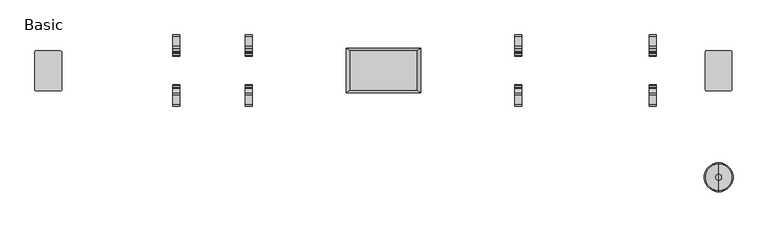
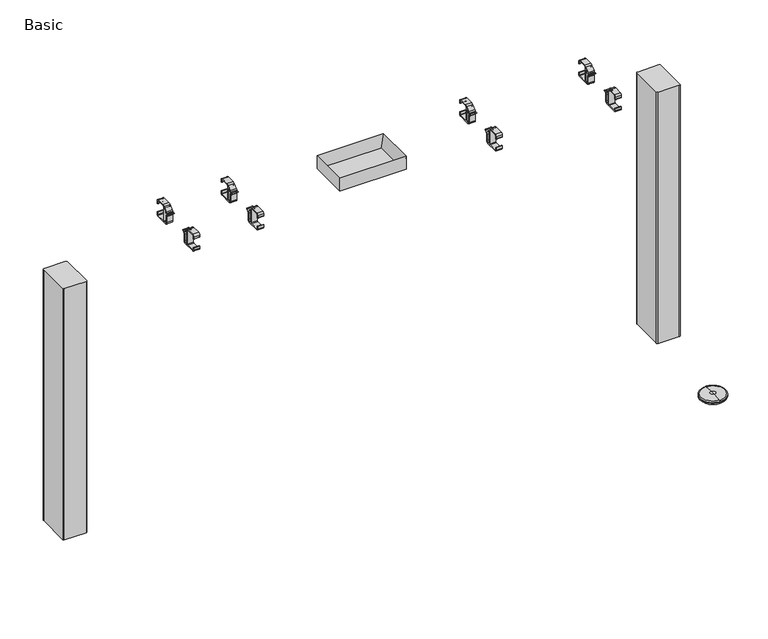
"""IFC4 building model written with IfcOpenShell, lengths in millimetres: furniture geometry, Steelcase Turnstone - Bivi - T Base : Basic."""

from ifc_helpers import new_model, si_unit, point, frame, frame_2d, origin, place, context, project, spatial, polyline, circle_curve, ellipse_curve, trimmed, segment, composite_curve, outline, extrude, faceted_brep, source, transform, mapped, element, save
from ifc_brep_helpers import plane_surface, cylinder_surface, revolved_surface, advanced_brep


def basic_98b1d471(model_context):
    return source(origin(), model_context, "Body", "SolidModel", [
        extrude(outline(composite_curve([segment(trimmed(circle_curve(frame_2d((606.6441449, -139.8062192)), 2.9999955), [point((609.6441404, -139.8062192))], [point((606.6441476, -142.8062147))], False, "CARTESIAN"), True, "CONTINUOUS"), segment(polyline([(606.6441476, -142.8062147), (552.7623335, -142.8062147)]), True, "CONTINUOUS"), segment(trimmed(circle_curve(frame_2d((552.7623308, -139.8062267)), 2.9999881), [point((552.7623335, -142.8062147))], [point((549.7623427, -139.8062267))], False, "CARTESIAN"), True, "CONTINUOUS"), segment(polyline([(549.7623427, -139.8062267), (549.7623427, -55.8062406)]), True, "CONTINUOUS"), segment(trimmed(circle_curve(frame_2d((552.7623507, -55.8062406)), 3.0000079), [point((549.7623427, -55.8062406))], [point((552.7623441, -52.8062327))], False, "CARTESIAN"), True, "CONTINUOUS"), segment(polyline([(552.7623441, -52.8062327), (606.644164, -52.8062327)]), True, "CONTINUOUS"), segment(trimmed(circle_curve(frame_2d((606.644164, -55.8062091)), 2.9999764), [point((606.644164, -52.8062327))], [point((609.6441404, -55.8062091))], False, "CARTESIAN"), True, "CONTINUOUS"), segment(polyline([(609.6441404, -55.8062091), (609.6441404, -139.8062192)]), True, "CONTINUOUS")], self_intersect=False)), frame((0.0, 0.0, 32.9997018), z_axis=(0.0, 0.0, 1.0), x_axis=(1.0, 0.0, 0.0)), (0.0, 0.0, 1.0), 673.400907),
        extrude(outline(composite_curve([segment(polyline([(-953.9431554, -140.227344), (-953.9431508, -55.5044158)]), True, "CONTINUOUS"), segment(trimmed(circle_curve(frame_2d((-951.2449196, -55.5044158)), 2.6982312), [point((-953.9431508, -55.5044158))], [point((-951.2449196, -52.8061846))], False, "CARTESIAN"), True, "CONTINUOUS"), segment(polyline([(-951.2449196, -52.8061846), (-898.3162966, -52.8061846)]), True, "CONTINUOUS"), segment(trimmed(circle_curve(frame_2d((-898.3162966, -57.1799025)), 4.3737179), [point((-898.3162966, -52.8061846))], [point((-893.9425787, -57.1799025))], False, "CARTESIAN"), True, "CONTINUOUS"), segment(polyline([(-893.9425787, -57.1799025), (-893.9425787, -140.352824)]), True, "CONTINUOUS"), segment(trimmed(circle_curve(frame_2d((-896.5432707, -140.2011003)), 2.605114), [point((-893.9425787, -140.352824))], [point((-896.5432707, -142.8062143))], False, "CARTESIAN"), True, "CONTINUOUS"), segment(polyline([(-896.5432707, -142.8062143), (-951.3642851, -142.8062143)]), True, "CONTINUOUS"), segment(trimmed(circle_curve(frame_2d((-951.3642851, -140.227344)), 2.5788703), [point((-951.3642851, -142.8062143))], [point((-953.9431554, -140.227344))], False, "CARTESIAN"), True, "CONTINUOUS")], self_intersect=False)), frame((0.0, 0.0, 32.9997018), z_axis=(0.0, 0.0, 1.0), x_axis=(1.0, 0.0, 0.0)), (0.0, 0.0, 1.0), 673.400907),
        extrude(outline(composite_curve([segment(trimmed(circle_curve(frame_2d((-65.7391624, 742.1239361)), 6.2415612), [point((-59.4976013, 742.1239361))], [point((-64.5659326, 748.2542393))], True, "CARTESIAN"), True, "CONTINUOUS"), segment(trimmed(circle_curve(frame_2d((-64.3721846, 749.2666017)), 1.0307357), [point((-64.5659326, 748.2542393))], [point((-64.1869392, 750.2805545))], False, "CARTESIAN"), True, "CONTINUOUS"), segment(trimmed(circle_curve(frame_2d((-65.6771233, 742.1239361)), 8.2916266), [point((-64.1869392, 750.2805545))], [point((-57.3854967, 742.1239361))], False, "CARTESIAN"), True, "CONTINUOUS"), segment(polyline([(-57.3854967, 742.1239361), (-57.3854967, 725.3624107)]), True, "CONTINUOUS"), segment(trimmed(circle_curve(frame_2d((-53.4972048, 725.3624107)), 3.8882919), [point((-57.3854967, 725.3624107))], [point((-53.4414787, 721.4745182))], True, "CARTESIAN"), True, "CONTINUOUS"), segment(polyline([(-53.4414787, 721.4745182), (-48.5753711, 721.4745182)]), True, "CONTINUOUS"), segment(trimmed(circle_curve(frame_2d((-48.5753711, 722.558435)), 1.0839168), [point((-48.5753711, 721.4745182))], [point((-47.4914543, 722.558435))], True, "CARTESIAN"), True, "CONTINUOUS"), segment(polyline([(-47.4914543, 722.558435), (-47.4914543, 756.2135585)]), True, "CONTINUOUS"), segment(trimmed(circle_curve(frame_2d((-49.0315964, 756.2135585)), 1.5401421), [point((-47.4914543, 756.2135585))], [point((-50.0681586, 757.3526706))], True, "CARTESIAN"), True, "CONTINUOUS"), segment(polyline([(-50.0681586, 757.3526706), (-54.4475369, 753.3675508)]), True, "CONTINUOUS"), segment(trimmed(circle_curve(frame_2d((-53.8610141, 752.7230017)), 0.8714657), [point((-54.4475369, 753.3675508))], [point((-54.6447876, 752.342014))], True, "CARTESIAN"), True, "CONTINUOUS"), segment(trimmed(circle_curve(frame_2d((-56.5369304, 751.4222544)), 2.1038446), [point((-54.6447876, 752.342014))], [point((-57.8009025, 753.1040798))], False, "CARTESIAN"), True, "CONTINUOUS"), segment(polyline([(-57.8009025, 753.1040798), (-48.4315057, 761.5182067)]), True, "CONTINUOUS"), segment(trimmed(circle_curve(frame_2d((-43.0316889, 755.5053397)), 8.0816206), [point((-48.4315057, 761.5182067))], [point((-43.0316889, 763.5869603))], False, "CARTESIAN"), True, "CONTINUOUS"), segment(polyline([(-43.0316889, 763.5869603), (-21.684555, 763.5869603)]), True, "CONTINUOUS"), segment(trimmed(circle_curve(frame_2d((-22.1935929, 758.8624493)), 4.7518548), [point((-21.684555, 763.5869603))], [point((-17.4417381, 758.8624493))], False, "CARTESIAN"), True, "CONTINUOUS"), segment(polyline([(-17.4417381, 758.8624493), (-17.4417381, 753.5063472)]), True, "CONTINUOUS"), segment(trimmed(circle_curve(frame_2d((-18.5067894, 753.5063472)), 1.0650513), [point((-17.4417381, 753.5063472))], [point((-19.5718406, 753.5063472))], False, "CARTESIAN"), True, "CONTINUOUS"), segment(polyline([(-19.5718406, 753.5063472), (-19.5718406, 759.3038862)]), True, "CONTINUOUS"), segment(trimmed(circle_curve(frame_2d((-22.6679544, 759.3038862)), 3.0961138), [point((-19.5718406, 759.3038862))], [point((-22.6679544, 762.4))], True, "CARTESIAN"), True, "CONTINUOUS"), segment(polyline([(-22.6679544, 762.4), (-43.0035831, 762.4)]), True, "CONTINUOUS"), segment(trimmed(circle_curve(frame_2d((-43.0035831, 759.897389)), 2.502611), [point((-43.0035831, 762.4))], [point((-45.5061941, 759.897389))], True, "CARTESIAN"), True, "CONTINUOUS"), segment(polyline([(-45.5061941, 759.897389), (-45.5061941, 722.9613964)]), True, "CONTINUOUS"), segment(trimmed(circle_curve(frame_2d((-44.0445082, 722.9613964)), 1.4616859), [point((-45.5061941, 722.9613964))], [point((-44.0445082, 721.4997105))], True, "CARTESIAN"), True, "CONTINUOUS"), segment(polyline([(-44.0445082, 721.4997105), (-21.0231187, 721.4997105)]), True, "CONTINUOUS"), segment(trimmed(circle_curve(frame_2d((-21.0231187, 722.9509885)), 1.451278), [point((-21.0231187, 721.4997105))], [point((-19.5718406, 722.9509885))], True, "CARTESIAN"), True, "CONTINUOUS"), segment(polyline([(-19.5718406, 722.9509885), (-19.5718406, 729.2789837), (-17.4417381, 729.2789837), (-17.4417381, 723.3602118)]), True, "CONTINUOUS"), segment(trimmed(circle_curve(frame_2d((-21.439512, 723.3602118)), 3.997774), [point((-17.4417381, 723.3602118))], [point((-21.439512, 719.3624378))], False, "CARTESIAN"), True, "CONTINUOUS"), segment(polyline([(-21.439512, 719.3624378), (-53.4414787, 719.3624378)]), True, "CONTINUOUS"), segment(trimmed(circle_curve(frame_2d((-53.4414787, 725.4188231)), 6.0563853), [point((-53.4414787, 719.3624378))], [point((-59.4976013, 725.3624107))], False, "CARTESIAN"), True, "CONTINUOUS"), segment(polyline([(-59.4976013, 725.3624107), (-59.4976013, 742.1239361)]), True, "CONTINUOUS")], self_intersect=False)), frame((-644.2435707, 0.0, 0.0), z_axis=(1.0, 0.0, 0.0), x_axis=(0.0, 1.0, 0.0)), (0.0, 0.0, 1.0), 15.24),
        extrude(outline(composite_curve([segment(polyline([(-135.6005693, 742.1239361), (-135.6005693, 725.3624107)]), True, "CONTINUOUS"), segment(trimmed(circle_curve(frame_2d((-141.6566919, 725.4188231)), 6.0563853), [point((-135.6005693, 725.3624107))], [point((-141.6566919, 719.3624378))], False, "CARTESIAN"), True, "CONTINUOUS"), segment(polyline([(-141.6566919, 719.3624378), (-173.6586586, 719.3624378)]), True, "CONTINUOUS"), segment(trimmed(circle_curve(frame_2d((-173.6586586, 723.3602118)), 3.997774), [point((-173.6586586, 719.3624378))], [point((-177.6564325, 723.3602118))], False, "CARTESIAN"), True, "CONTINUOUS"), segment(polyline([(-177.6564325, 723.3602118), (-177.6564325, 729.2789837), (-175.52633, 729.2789837), (-175.52633, 722.9509885)]), True, "CONTINUOUS"), segment(trimmed(circle_curve(frame_2d((-174.0750519, 722.9509885)), 1.451278), [point((-175.52633, 722.9509885))], [point((-174.0750519, 721.4997105))], True, "CARTESIAN"), True, "CONTINUOUS"), segment(polyline([(-174.0750519, 721.4997105), (-151.0536624, 721.4997105)]), True, "CONTINUOUS"), segment(trimmed(circle_curve(frame_2d((-151.0536624, 722.9613964)), 1.4616859), [point((-151.0536624, 721.4997105))], [point((-149.5919765, 722.9613964))], True, "CARTESIAN"), True, "CONTINUOUS"), segment(polyline([(-149.5919765, 722.9613964), (-149.5919765, 759.897389)]), True, "CONTINUOUS"), segment(trimmed(circle_curve(frame_2d((-152.0945875, 759.897389)), 2.502611), [point((-149.5919765, 759.897389))], [point((-152.0945875, 762.4))], True, "CARTESIAN"), True, "CONTINUOUS"), segment(polyline([(-152.0945875, 762.4), (-172.4302162, 762.4)]), True, "CONTINUOUS"), segment(trimmed(circle_curve(frame_2d((-172.4302162, 759.3038862)), 3.0961138), [point((-172.4302162, 762.4))], [point((-175.52633, 759.3038862))], True, "CARTESIAN"), True, "CONTINUOUS"), segment(polyline([(-175.52633, 759.3038862), (-175.52633, 753.5063472)]), True, "CONTINUOUS"), segment(trimmed(circle_curve(frame_2d((-176.5913812, 753.5063472)), 1.0650513), [point((-175.52633, 753.5063472))], [point((-177.6564325, 753.5063472))], False, "CARTESIAN"), True, "CONTINUOUS"), segment(polyline([(-177.6564325, 753.5063472), (-177.6564325, 758.8624493)]), True, "CONTINUOUS"), segment(trimmed(circle_curve(frame_2d((-172.9045777, 758.8624493)), 4.7518548), [point((-177.6564325, 758.8624493))], [point((-173.4136156, 763.5869603))], False, "CARTESIAN"), True, "CONTINUOUS"), segment(polyline([(-173.4136156, 763.5869603), (-152.0664817, 763.5869603)]), True, "CONTINUOUS"), segment(trimmed(circle_curve(frame_2d((-152.0664817, 755.5053397)), 8.0816206), [point((-152.0664817, 763.5869603))], [point((-146.6666649, 761.5182067))], False, "CARTESIAN"), True, "CONTINUOUS"), segment(polyline([(-146.6666649, 761.5182067), (-137.2972681, 753.1040798)]), True, "CONTINUOUS"), segment(trimmed(circle_curve(frame_2d((-138.5612402, 751.4222544)), 2.1038446), [point((-137.2972681, 753.1040798))], [point((-140.453383, 752.342014))], False, "CARTESIAN"), True, "CONTINUOUS"), segment(trimmed(circle_curve(frame_2d((-141.2371565, 752.7230017)), 0.8714657), [point((-140.453383, 752.342014))], [point((-140.6506337, 753.3675508))], True, "CARTESIAN"), True, "CONTINUOUS"), segment(polyline([(-140.6506337, 753.3675508), (-145.030012, 757.3526706)]), True, "CONTINUOUS"), segment(trimmed(circle_curve(frame_2d((-146.0665742, 756.2135585)), 1.5401421), [point((-145.030012, 757.3526706))], [point((-147.6067163, 756.2135585))], True, "CARTESIAN"), True, "CONTINUOUS"), segment(polyline([(-147.6067163, 756.2135585), (-147.6067163, 722.558435)]), True, "CONTINUOUS"), segment(trimmed(circle_curve(frame_2d((-146.5227995, 722.558435)), 1.0839168), [point((-147.6067163, 722.558435))], [point((-146.5227995, 721.4745182))], True, "CARTESIAN"), True, "CONTINUOUS"), segment(polyline([(-146.5227995, 721.4745182), (-141.6566919, 721.4745182)]), True, "CONTINUOUS"), segment(trimmed(circle_curve(frame_2d((-141.6009658, 725.3624107)), 3.8882919), [point((-141.6566919, 721.4745182))], [point((-137.7126739, 725.3624107))], True, "CARTESIAN"), True, "CONTINUOUS"), segment(polyline([(-137.7126739, 725.3624107), (-137.7126739, 742.1239361)]), True, "CONTINUOUS"), segment(trimmed(circle_curve(frame_2d((-129.4210473, 742.1239361)), 8.2916266), [point((-137.7126739, 742.1239361))], [point((-130.9112314, 750.2805545))], False, "CARTESIAN"), True, "CONTINUOUS"), segment(trimmed(circle_curve(frame_2d((-130.725986, 749.2666017)), 1.0307357), [point((-130.9112314, 750.2805545))], [point((-130.532238, 748.2542393))], False, "CARTESIAN"), True, "CONTINUOUS"), segment(trimmed(circle_curve(frame_2d((-129.3590082, 742.1239361)), 6.2415612), [point((-130.532238, 748.2542393))], [point((-135.6005693, 742.1239361))], True, "CARTESIAN"), True, "CONTINUOUS")], self_intersect=False)), frame((-644.2435707, 0.0, 0.0), z_axis=(1.0, 0.0, 0.0), x_axis=(0.0, 1.0, 0.0)), (0.0, 0.0, 1.0), 15.24),
        extrude(outline(composite_curve([segment(trimmed(circle_curve(frame_2d((-65.7391624, 742.1239361)), 6.2415612), [point((-59.4976013, 742.1239361))], [point((-64.5659326, 748.2542393))], True, "CARTESIAN"), True, "CONTINUOUS"), segment(trimmed(circle_curve(frame_2d((-64.3721846, 749.2666017)), 1.0307357), [point((-64.5659326, 748.2542393))], [point((-64.1869392, 750.2805545))], False, "CARTESIAN"), True, "CONTINUOUS"), segment(trimmed(circle_curve(frame_2d((-65.6771233, 742.1239361)), 8.2916266), [point((-64.1869392, 750.2805545))], [point((-57.3854967, 742.1239361))], False, "CARTESIAN"), True, "CONTINUOUS"), segment(polyline([(-57.3854967, 742.1239361), (-57.3854967, 725.3624107)]), True, "CONTINUOUS"), segment(trimmed(circle_curve(frame_2d((-53.4972048, 725.3624107)), 3.8882919), [point((-57.3854967, 725.3624107))], [point((-53.4414787, 721.4745182))], True, "CARTESIAN"), True, "CONTINUOUS"), segment(polyline([(-53.4414787, 721.4745182), (-48.5753711, 721.4745182)]), True, "CONTINUOUS"), segment(trimmed(circle_curve(frame_2d((-48.5753711, 722.558435)), 1.0839168), [point((-48.5753711, 721.4745182))], [point((-47.4914543, 722.558435))], True, "CARTESIAN"), True, "CONTINUOUS"), segment(polyline([(-47.4914543, 722.558435), (-47.4914543, 756.2135585)]), True, "CONTINUOUS"), segment(trimmed(circle_curve(frame_2d((-49.0315964, 756.2135585)), 1.5401421), [point((-47.4914543, 756.2135585))], [point((-50.0681586, 757.3526706))], True, "CARTESIAN"), True, "CONTINUOUS"), segment(polyline([(-50.0681586, 757.3526706), (-54.4475369, 753.3675508)]), True, "CONTINUOUS"), segment(trimmed(circle_curve(frame_2d((-53.8610141, 752.7230017)), 0.8714657), [point((-54.4475369, 753.3675508))], [point((-54.6447876, 752.342014))], True, "CARTESIAN"), True, "CONTINUOUS"), segment(trimmed(circle_curve(frame_2d((-56.5369304, 751.4222544)), 2.1038446), [point((-54.6447876, 752.342014))], [point((-57.8009025, 753.1040798))], False, "CARTESIAN"), True, "CONTINUOUS"), segment(polyline([(-57.8009025, 753.1040798), (-48.4315057, 761.5182067)]), True, "CONTINUOUS"), segment(trimmed(circle_curve(frame_2d((-43.0316889, 755.5053397)), 8.0816206), [point((-48.4315057, 761.5182067))], [point((-43.0316889, 763.5869603))], False, "CARTESIAN"), True, "CONTINUOUS"), segment(polyline([(-43.0316889, 763.5869603), (-21.684555, 763.5869603)]), True, "CONTINUOUS"), segment(trimmed(circle_curve(frame_2d((-22.1935929, 758.8624493)), 4.7518548), [point((-21.684555, 763.5869603))], [point((-17.4417381, 758.8624493))], False, "CARTESIAN"), True, "CONTINUOUS"), segment(polyline([(-17.4417381, 758.8624493), (-17.4417381, 753.5063472)]), True, "CONTINUOUS"), segment(trimmed(circle_curve(frame_2d((-18.5067894, 753.5063472)), 1.0650513), [point((-17.4417381, 753.5063472))], [point((-19.5718406, 753.5063472))], False, "CARTESIAN"), True, "CONTINUOUS"), segment(polyline([(-19.5718406, 753.5063472), (-19.5718406, 759.3038862)]), True, "CONTINUOUS"), segment(trimmed(circle_curve(frame_2d((-22.6679544, 759.3038862)), 3.0961138), [point((-19.5718406, 759.3038862))], [point((-22.6679544, 762.4))], True, "CARTESIAN"), True, "CONTINUOUS"), segment(polyline([(-22.6679544, 762.4), (-43.0035831, 762.4)]), True, "CONTINUOUS"), segment(trimmed(circle_curve(frame_2d((-43.0035831, 759.897389)), 2.502611), [point((-43.0035831, 762.4))], [point((-45.5061941, 759.897389))], True, "CARTESIAN"), True, "CONTINUOUS"), segment(polyline([(-45.5061941, 759.897389), (-45.5061941, 722.9613964)]), True, "CONTINUOUS"), segment(trimmed(circle_curve(frame_2d((-44.0445082, 722.9613964)), 1.4616859), [point((-45.5061941, 722.9613964))], [point((-44.0445082, 721.4997105))], True, "CARTESIAN"), True, "CONTINUOUS"), segment(polyline([(-44.0445082, 721.4997105), (-21.0231187, 721.4997105)]), True, "CONTINUOUS"), segment(trimmed(circle_curve(frame_2d((-21.0231187, 722.9509885)), 1.451278), [point((-21.0231187, 721.4997105))], [point((-19.5718406, 722.9509885))], True, "CARTESIAN"), True, "CONTINUOUS"), segment(polyline([(-19.5718406, 722.9509885), (-19.5718406, 729.2789837), (-17.4417381, 729.2789837), (-17.4417381, 723.3602118)]), True, "CONTINUOUS"), segment(trimmed(circle_curve(frame_2d((-21.439512, 723.3602118)), 3.997774), [point((-17.4417381, 723.3602118))], [point((-21.439512, 719.3624378))], False, "CARTESIAN"), True, "CONTINUOUS"), segment(polyline([(-21.439512, 719.3624378), (-53.4414787, 719.3624378)]), True, "CONTINUOUS"), segment(trimmed(circle_curve(frame_2d((-53.4414787, 725.4188231)), 6.0563853), [point((-53.4414787, 719.3624378))], [point((-59.4976013, 725.3624107))], False, "CARTESIAN"), True, "CONTINUOUS"), segment(polyline([(-59.4976013, 725.3624107), (-59.4976013, 742.1239361)]), True, "CONTINUOUS")], self_intersect=False)), frame((-481.9950023, 0.0, 0.0), z_axis=(1.0, 0.0, 0.0), x_axis=(0.0, 1.0, 0.0)), (0.0, 0.0, 1.0), 15.24),
        extrude(outline(composite_curve([segment(polyline([(-135.6005693, 742.1239361), (-135.6005693, 725.3624107)]), True, "CONTINUOUS"), segment(trimmed(circle_curve(frame_2d((-141.6566919, 725.4188231)), 6.0563853), [point((-135.6005693, 725.3624107))], [point((-141.6566919, 719.3624378))], False, "CARTESIAN"), True, "CONTINUOUS"), segment(polyline([(-141.6566919, 719.3624378), (-173.6586586, 719.3624378)]), True, "CONTINUOUS"), segment(trimmed(circle_curve(frame_2d((-173.6586586, 723.3602118)), 3.997774), [point((-173.6586586, 719.3624378))], [point((-177.6564325, 723.3602118))], False, "CARTESIAN"), True, "CONTINUOUS"), segment(polyline([(-177.6564325, 723.3602118), (-177.6564325, 729.2789837), (-175.52633, 729.2789837), (-175.52633, 722.9509885)]), True, "CONTINUOUS"), segment(trimmed(circle_curve(frame_2d((-174.0750519, 722.9509885)), 1.451278), [point((-175.52633, 722.9509885))], [point((-174.0750519, 721.4997105))], True, "CARTESIAN"), True, "CONTINUOUS"), segment(polyline([(-174.0750519, 721.4997105), (-151.0536624, 721.4997105)]), True, "CONTINUOUS"), segment(trimmed(circle_curve(frame_2d((-151.0536624, 722.9613964)), 1.4616859), [point((-151.0536624, 721.4997105))], [point((-149.5919765, 722.9613964))], True, "CARTESIAN"), True, "CONTINUOUS"), segment(polyline([(-149.5919765, 722.9613964), (-149.5919765, 759.897389)]), True, "CONTINUOUS"), segment(trimmed(circle_curve(frame_2d((-152.0945875, 759.897389)), 2.502611), [point((-149.5919765, 759.897389))], [point((-152.0945875, 762.4))], True, "CARTESIAN"), True, "CONTINUOUS"), segment(polyline([(-152.0945875, 762.4), (-172.4302162, 762.4)]), True, "CONTINUOUS"), segment(trimmed(circle_curve(frame_2d((-172.4302162, 759.3038862)), 3.0961138), [point((-172.4302162, 762.4))], [point((-175.52633, 759.3038862))], True, "CARTESIAN"), True, "CONTINUOUS"), segment(polyline([(-175.52633, 759.3038862), (-175.52633, 753.5063472)]), True, "CONTINUOUS"), segment(trimmed(circle_curve(frame_2d((-176.5913812, 753.5063472)), 1.0650513), [point((-175.52633, 753.5063472))], [point((-177.6564325, 753.5063472))], False, "CARTESIAN"), True, "CONTINUOUS"), segment(polyline([(-177.6564325, 753.5063472), (-177.6564325, 758.8624493)]), True, "CONTINUOUS"), segment(trimmed(circle_curve(frame_2d((-172.9045777, 758.8624493)), 4.7518548), [point((-177.6564325, 758.8624493))], [point((-173.4136156, 763.5869603))], False, "CARTESIAN"), True, "CONTINUOUS"), segment(polyline([(-173.4136156, 763.5869603), (-152.0664817, 763.5869603)]), True, "CONTINUOUS"), segment(trimmed(circle_curve(frame_2d((-152.0664817, 755.5053397)), 8.0816206), [point((-152.0664817, 763.5869603))], [point((-146.6666649, 761.5182067))], False, "CARTESIAN"), True, "CONTINUOUS"), segment(polyline([(-146.6666649, 761.5182067), (-137.2972681, 753.1040798)]), True, "CONTINUOUS"), segment(trimmed(circle_curve(frame_2d((-138.5612402, 751.4222544)), 2.1038446), [point((-137.2972681, 753.1040798))], [point((-140.453383, 752.342014))], False, "CARTESIAN"), True, "CONTINUOUS"), segment(trimmed(circle_curve(frame_2d((-141.2371565, 752.7230017)), 0.8714657), [point((-140.453383, 752.342014))], [point((-140.6506337, 753.3675508))], True, "CARTESIAN"), True, "CONTINUOUS"), segment(polyline([(-140.6506337, 753.3675508), (-145.030012, 757.3526706)]), True, "CONTINUOUS"), segment(trimmed(circle_curve(frame_2d((-146.0665742, 756.2135585)), 1.5401421), [point((-145.030012, 757.3526706))], [point((-147.6067163, 756.2135585))], True, "CARTESIAN"), True, "CONTINUOUS"), segment(polyline([(-147.6067163, 756.2135585), (-147.6067163, 722.558435)]), True, "CONTINUOUS"), segment(trimmed(circle_curve(frame_2d((-146.5227995, 722.558435)), 1.0839168), [point((-147.6067163, 722.558435))], [point((-146.5227995, 721.4745182))], True, "CARTESIAN"), True, "CONTINUOUS"), segment(polyline([(-146.5227995, 721.4745182), (-141.6566919, 721.4745182)]), True, "CONTINUOUS"), segment(trimmed(circle_curve(frame_2d((-141.6009658, 725.3624107)), 3.8882919), [point((-141.6566919, 721.4745182))], [point((-137.7126739, 725.3624107))], True, "CARTESIAN"), True, "CONTINUOUS"), segment(polyline([(-137.7126739, 725.3624107), (-137.7126739, 742.1239361)]), True, "CONTINUOUS"), segment(trimmed(circle_curve(frame_2d((-129.4210473, 742.1239361)), 8.2916266), [point((-137.7126739, 742.1239361))], [point((-130.9112314, 750.2805545))], False, "CARTESIAN"), True, "CONTINUOUS"), segment(trimmed(circle_curve(frame_2d((-130.725986, 749.2666017)), 1.0307357), [point((-130.9112314, 750.2805545))], [point((-130.532238, 748.2542393))], False, "CARTESIAN"), True, "CONTINUOUS"), segment(trimmed(circle_curve(frame_2d((-129.3590082, 742.1239361)), 6.2415612), [point((-130.532238, 748.2542393))], [point((-135.6005693, 742.1239361))], True, "CARTESIAN"), True, "CONTINUOUS")], self_intersect=False)), frame((-481.9950023, 0.0, 0.0), z_axis=(1.0, 0.0, 0.0), x_axis=(0.0, 1.0, 0.0)), (0.0, 0.0, 1.0), 15.24),
        extrude(outline(composite_curve([segment(trimmed(circle_curve(frame_2d((-65.7391624, 742.1239361)), 6.2415612), [point((-59.4976013, 742.1239361))], [point((-64.5659326, 748.2542393))], True, "CARTESIAN"), True, "CONTINUOUS"), segment(trimmed(circle_curve(frame_2d((-64.3721846, 749.2666017)), 1.0307357), [point((-64.5659326, 748.2542393))], [point((-64.1869392, 750.2805545))], False, "CARTESIAN"), True, "CONTINUOUS"), segment(trimmed(circle_curve(frame_2d((-65.6771233, 742.1239361)), 8.2916266), [point((-64.1869392, 750.2805545))], [point((-57.3854967, 742.1239361))], False, "CARTESIAN"), True, "CONTINUOUS"), segment(polyline([(-57.3854967, 742.1239361), (-57.3854967, 725.3624107)]), True, "CONTINUOUS"), segment(trimmed(circle_curve(frame_2d((-53.4972048, 725.3624107)), 3.8882919), [point((-57.3854967, 725.3624107))], [point((-53.4414787, 721.4745182))], True, "CARTESIAN"), True, "CONTINUOUS"), segment(polyline([(-53.4414787, 721.4745182), (-48.5753711, 721.4745182)]), True, "CONTINUOUS"), segment(trimmed(circle_curve(frame_2d((-48.5753711, 722.558435)), 1.0839168), [point((-48.5753711, 721.4745182))], [point((-47.4914543, 722.558435))], True, "CARTESIAN"), True, "CONTINUOUS"), segment(polyline([(-47.4914543, 722.558435), (-47.4914543, 756.2135585)]), True, "CONTINUOUS"), segment(trimmed(circle_curve(frame_2d((-49.0315964, 756.2135585)), 1.5401421), [point((-47.4914543, 756.2135585))], [point((-50.0681586, 757.3526706))], True, "CARTESIAN"), True, "CONTINUOUS"), segment(polyline([(-50.0681586, 757.3526706), (-54.4475369, 753.3675508)]), True, "CONTINUOUS"), segment(trimmed(circle_curve(frame_2d((-53.8610141, 752.7230017)), 0.8714657), [point((-54.4475369, 753.3675508))], [point((-54.6447876, 752.342014))], True, "CARTESIAN"), True, "CONTINUOUS"), segment(trimmed(circle_curve(frame_2d((-56.5369304, 751.4222544)), 2.1038446), [point((-54.6447876, 752.342014))], [point((-57.8009025, 753.1040798))], False, "CARTESIAN"), True, "CONTINUOUS"), segment(polyline([(-57.8009025, 753.1040798), (-48.4315057, 761.5182067)]), True, "CONTINUOUS"), segment(trimmed(circle_curve(frame_2d((-43.0316889, 755.5053397)), 8.0816206), [point((-48.4315057, 761.5182067))], [point((-43.0316889, 763.5869603))], False, "CARTESIAN"), True, "CONTINUOUS"), segment(polyline([(-43.0316889, 763.5869603), (-21.684555, 763.5869603)]), True, "CONTINUOUS"), segment(trimmed(circle_curve(frame_2d((-22.1935929, 758.8624493)), 4.7518548), [point((-21.684555, 763.5869603))], [point((-17.4417381, 758.8624493))], False, "CARTESIAN"), True, "CONTINUOUS"), segment(polyline([(-17.4417381, 758.8624493), (-17.4417381, 753.5063472)]), True, "CONTINUOUS"), segment(trimmed(circle_curve(frame_2d((-18.5067894, 753.5063472)), 1.0650513), [point((-17.4417381, 753.5063472))], [point((-19.5718406, 753.5063472))], False, "CARTESIAN"), True, "CONTINUOUS"), segment(polyline([(-19.5718406, 753.5063472), (-19.5718406, 759.3038862)]), True, "CONTINUOUS"), segment(trimmed(circle_curve(frame_2d((-22.6679544, 759.3038862)), 3.0961138), [point((-19.5718406, 759.3038862))], [point((-22.6679544, 762.4))], True, "CARTESIAN"), True, "CONTINUOUS"), segment(polyline([(-22.6679544, 762.4), (-43.0035831, 762.4)]), True, "CONTINUOUS"), segment(trimmed(circle_curve(frame_2d((-43.0035831, 759.897389)), 2.502611), [point((-43.0035831, 762.4))], [point((-45.5061941, 759.897389))], True, "CARTESIAN"), True, "CONTINUOUS"), segment(polyline([(-45.5061941, 759.897389), (-45.5061941, 722.9613964)]), True, "CONTINUOUS"), segment(trimmed(circle_curve(frame_2d((-44.0445082, 722.9613964)), 1.4616859), [point((-45.5061941, 722.9613964))], [point((-44.0445082, 721.4997105))], True, "CARTESIAN"), True, "CONTINUOUS"), segment(polyline([(-44.0445082, 721.4997105), (-21.0231187, 721.4997105)]), True, "CONTINUOUS"), segment(trimmed(circle_curve(frame_2d((-21.0231187, 722.9509885)), 1.451278), [point((-21.0231187, 721.4997105))], [point((-19.5718406, 722.9509885))], True, "CARTESIAN"), True, "CONTINUOUS"), segment(polyline([(-19.5718406, 722.9509885), (-19.5718406, 729.2789837), (-17.4417381, 729.2789837), (-17.4417381, 723.3602118)]), True, "CONTINUOUS"), segment(trimmed(circle_curve(frame_2d((-21.439512, 723.3602118)), 3.997774), [point((-17.4417381, 723.3602118))], [point((-21.439512, 719.3624378))], False, "CARTESIAN"), True, "CONTINUOUS"), segment(polyline([(-21.439512, 719.3624378), (-53.4414787, 719.3624378)]), True, "CONTINUOUS"), segment(trimmed(circle_curve(frame_2d((-53.4414787, 725.4188231)), 6.0563853), [point((-53.4414787, 719.3624378))], [point((-59.4976013, 725.3624107))], False, "CARTESIAN"), True, "CONTINUOUS"), segment(polyline([(-59.4976013, 725.3624107), (-59.4976013, 742.1239361)]), True, "CONTINUOUS")], self_intersect=False)), frame((424.2631648, 0.0, 0.0), z_axis=(1.0, 0.0, 0.0), x_axis=(0.0, 1.0, 0.0)), (0.0, 0.0, 1.0), 15.24),
        extrude(outline(composite_curve([segment(polyline([(-135.6005693, 742.1239361), (-135.6005693, 725.3624107)]), True, "CONTINUOUS"), segment(trimmed(circle_curve(frame_2d((-141.6566919, 725.4188231)), 6.0563853), [point((-135.6005693, 725.3624107))], [point((-141.6566919, 719.3624378))], False, "CARTESIAN"), True, "CONTINUOUS"), segment(polyline([(-141.6566919, 719.3624378), (-173.6586586, 719.3624378)]), True, "CONTINUOUS"), segment(trimmed(circle_curve(frame_2d((-173.6586586, 723.3602118)), 3.997774), [point((-173.6586586, 719.3624378))], [point((-177.6564325, 723.3602118))], False, "CARTESIAN"), True, "CONTINUOUS"), segment(polyline([(-177.6564325, 723.3602118), (-177.6564325, 729.2789837), (-175.52633, 729.2789837), (-175.52633, 722.9509885)]), True, "CONTINUOUS"), segment(trimmed(circle_curve(frame_2d((-174.0750519, 722.9509885)), 1.451278), [point((-175.52633, 722.9509885))], [point((-174.0750519, 721.4997105))], True, "CARTESIAN"), True, "CONTINUOUS"), segment(polyline([(-174.0750519, 721.4997105), (-151.0536624, 721.4997105)]), True, "CONTINUOUS"), segment(trimmed(circle_curve(frame_2d((-151.0536624, 722.9613964)), 1.4616859), [point((-151.0536624, 721.4997105))], [point((-149.5919765, 722.9613964))], True, "CARTESIAN"), True, "CONTINUOUS"), segment(polyline([(-149.5919765, 722.9613964), (-149.5919765, 759.897389)]), True, "CONTINUOUS"), segment(trimmed(circle_curve(frame_2d((-152.0945875, 759.897389)), 2.502611), [point((-149.5919765, 759.897389))], [point((-152.0945875, 762.4))], True, "CARTESIAN"), True, "CONTINUOUS"), segment(polyline([(-152.0945875, 762.4), (-172.4302162, 762.4)]), True, "CONTINUOUS"), segment(trimmed(circle_curve(frame_2d((-172.4302162, 759.3038862)), 3.0961138), [point((-172.4302162, 762.4))], [point((-175.52633, 759.3038862))], True, "CARTESIAN"), True, "CONTINUOUS"), segment(polyline([(-175.52633, 759.3038862), (-175.52633, 753.5063472)]), True, "CONTINUOUS"), segment(trimmed(circle_curve(frame_2d((-176.5913812, 753.5063472)), 1.0650513), [point((-175.52633, 753.5063472))], [point((-177.6564325, 753.5063472))], False, "CARTESIAN"), True, "CONTINUOUS"), segment(polyline([(-177.6564325, 753.5063472), (-177.6564325, 758.8624493)]), True, "CONTINUOUS"), segment(trimmed(circle_curve(frame_2d((-172.9045777, 758.8624493)), 4.7518548), [point((-177.6564325, 758.8624493))], [point((-173.4136156, 763.5869603))], False, "CARTESIAN"), True, "CONTINUOUS"), segment(polyline([(-173.4136156, 763.5869603), (-152.0664817, 763.5869603)]), True, "CONTINUOUS"), segment(trimmed(circle_curve(frame_2d((-152.0664817, 755.5053397)), 8.0816206), [point((-152.0664817, 763.5869603))], [point((-146.6666649, 761.5182067))], False, "CARTESIAN"), True, "CONTINUOUS"), segment(polyline([(-146.6666649, 761.5182067), (-137.2972681, 753.1040798)]), True, "CONTINUOUS"), segment(trimmed(circle_curve(frame_2d((-138.5612402, 751.4222544)), 2.1038446), [point((-137.2972681, 753.1040798))], [point((-140.453383, 752.342014))], False, "CARTESIAN"), True, "CONTINUOUS"), segment(trimmed(circle_curve(frame_2d((-141.2371565, 752.7230017)), 0.8714657), [point((-140.453383, 752.342014))], [point((-140.6506337, 753.3675508))], True, "CARTESIAN"), True, "CONTINUOUS"), segment(polyline([(-140.6506337, 753.3675508), (-145.030012, 757.3526706)]), True, "CONTINUOUS"), segment(trimmed(circle_curve(frame_2d((-146.0665742, 756.2135585)), 1.5401421), [point((-145.030012, 757.3526706))], [point((-147.6067163, 756.2135585))], True, "CARTESIAN"), True, "CONTINUOUS"), segment(polyline([(-147.6067163, 756.2135585), (-147.6067163, 722.558435)]), True, "CONTINUOUS"), segment(trimmed(circle_curve(frame_2d((-146.5227995, 722.558435)), 1.0839168), [point((-147.6067163, 722.558435))], [point((-146.5227995, 721.4745182))], True, "CARTESIAN"), True, "CONTINUOUS"), segment(polyline([(-146.5227995, 721.4745182), (-141.6566919, 721.4745182)]), True, "CONTINUOUS"), segment(trimmed(circle_curve(frame_2d((-141.6009658, 725.3624107)), 3.8882919), [point((-141.6566919, 721.4745182))], [point((-137.7126739, 725.3624107))], True, "CARTESIAN"), True, "CONTINUOUS"), segment(polyline([(-137.7126739, 725.3624107), (-137.7126739, 742.1239361)]), True, "CONTINUOUS"), segment(trimmed(circle_curve(frame_2d((-129.4210473, 742.1239361)), 8.2916266), [point((-137.7126739, 742.1239361))], [point((-130.9112314, 750.2805545))], False, "CARTESIAN"), True, "CONTINUOUS"), segment(trimmed(circle_curve(frame_2d((-130.725986, 749.2666017)), 1.0307357), [point((-130.9112314, 750.2805545))], [point((-130.532238, 748.2542393))], False, "CARTESIAN"), True, "CONTINUOUS"), segment(trimmed(circle_curve(frame_2d((-129.3590082, 742.1239361)), 6.2415612), [point((-130.532238, 748.2542393))], [point((-135.6005693, 742.1239361))], True, "CARTESIAN"), True, "CONTINUOUS")], self_intersect=False)), frame((424.2631648, 0.0, 0.0), z_axis=(1.0, 0.0, 0.0), x_axis=(0.0, 1.0, 0.0)), (0.0, 0.0, 1.0), 15.24),
        extrude(outline(composite_curve([segment(trimmed(circle_curve(frame_2d((-65.7391624, 742.1239361)), 6.2415612), [point((-59.4976013, 742.1239361))], [point((-64.5659326, 748.2542393))], True, "CARTESIAN"), True, "CONTINUOUS"), segment(trimmed(circle_curve(frame_2d((-64.3721846, 749.2666017)), 1.0307357), [point((-64.5659326, 748.2542393))], [point((-64.1869392, 750.2805545))], False, "CARTESIAN"), True, "CONTINUOUS"), segment(trimmed(circle_curve(frame_2d((-65.6771233, 742.1239361)), 8.2916266), [point((-64.1869392, 750.2805545))], [point((-57.3854967, 742.1239361))], False, "CARTESIAN"), True, "CONTINUOUS"), segment(polyline([(-57.3854967, 742.1239361), (-57.3854967, 725.3624107)]), True, "CONTINUOUS"), segment(trimmed(circle_curve(frame_2d((-53.4972048, 725.3624107)), 3.8882919), [point((-57.3854967, 725.3624107))], [point((-53.4414787, 721.4745182))], True, "CARTESIAN"), True, "CONTINUOUS"), segment(polyline([(-53.4414787, 721.4745182), (-48.5753711, 721.4745182)]), True, "CONTINUOUS"), segment(trimmed(circle_curve(frame_2d((-48.5753711, 722.558435)), 1.0839168), [point((-48.5753711, 721.4745182))], [point((-47.4914543, 722.558435))], True, "CARTESIAN"), True, "CONTINUOUS"), segment(polyline([(-47.4914543, 722.558435), (-47.4914543, 756.2135585)]), True, "CONTINUOUS"), segment(trimmed(circle_curve(frame_2d((-49.0315964, 756.2135585)), 1.5401421), [point((-47.4914543, 756.2135585))], [point((-50.0681586, 757.3526706))], True, "CARTESIAN"), True, "CONTINUOUS"), segment(polyline([(-50.0681586, 757.3526706), (-54.4475369, 753.3675508)]), True, "CONTINUOUS"), segment(trimmed(circle_curve(frame_2d((-53.8610141, 752.7230017)), 0.8714657), [point((-54.4475369, 753.3675508))], [point((-54.6447876, 752.342014))], True, "CARTESIAN"), True, "CONTINUOUS"), segment(trimmed(circle_curve(frame_2d((-56.5369304, 751.4222544)), 2.1038446), [point((-54.6447876, 752.342014))], [point((-57.8009025, 753.1040798))], False, "CARTESIAN"), True, "CONTINUOUS"), segment(polyline([(-57.8009025, 753.1040798), (-48.4315057, 761.5182067)]), True, "CONTINUOUS"), segment(trimmed(circle_curve(frame_2d((-43.0316889, 755.5053397)), 8.0816206), [point((-48.4315057, 761.5182067))], [point((-43.0316889, 763.5869603))], False, "CARTESIAN"), True, "CONTINUOUS"), segment(polyline([(-43.0316889, 763.5869603), (-21.684555, 763.5869603)]), True, "CONTINUOUS"), segment(trimmed(circle_curve(frame_2d((-22.1935929, 758.8624493)), 4.7518548), [point((-21.684555, 763.5869603))], [point((-17.4417381, 758.8624493))], False, "CARTESIAN"), True, "CONTINUOUS"), segment(polyline([(-17.4417381, 758.8624493), (-17.4417381, 753.5063472)]), True, "CONTINUOUS"), segment(trimmed(circle_curve(frame_2d((-18.5067894, 753.5063472)), 1.0650513), [point((-17.4417381, 753.5063472))], [point((-19.5718406, 753.5063472))], False, "CARTESIAN"), True, "CONTINUOUS"), segment(polyline([(-19.5718406, 753.5063472), (-19.5718406, 759.3038862)]), True, "CONTINUOUS"), segment(trimmed(circle_curve(frame_2d((-22.6679544, 759.3038862)), 3.0961138), [point((-19.5718406, 759.3038862))], [point((-22.6679544, 762.4))], True, "CARTESIAN"), True, "CONTINUOUS"), segment(polyline([(-22.6679544, 762.4), (-43.0035831, 762.4)]), True, "CONTINUOUS"), segment(trimmed(circle_curve(frame_2d((-43.0035831, 759.897389)), 2.502611), [point((-43.0035831, 762.4))], [point((-45.5061941, 759.897389))], True, "CARTESIAN"), True, "CONTINUOUS"), segment(polyline([(-45.5061941, 759.897389), (-45.5061941, 722.9613964)]), True, "CONTINUOUS"), segment(trimmed(circle_curve(frame_2d((-44.0445082, 722.9613964)), 1.4616859), [point((-45.5061941, 722.9613964))], [point((-44.0445082, 721.4997105))], True, "CARTESIAN"), True, "CONTINUOUS"), segment(polyline([(-44.0445082, 721.4997105), (-21.0231187, 721.4997105)]), True, "CONTINUOUS"), segment(trimmed(circle_curve(frame_2d((-21.0231187, 722.9509885)), 1.451278), [point((-21.0231187, 721.4997105))], [point((-19.5718406, 722.9509885))], True, "CARTESIAN"), True, "CONTINUOUS"), segment(polyline([(-19.5718406, 722.9509885), (-19.5718406, 729.2789837), (-17.4417381, 729.2789837), (-17.4417381, 723.3602118)]), True, "CONTINUOUS"), segment(trimmed(circle_curve(frame_2d((-21.439512, 723.3602118)), 3.997774), [point((-17.4417381, 723.3602118))], [point((-21.439512, 719.3624378))], False, "CARTESIAN"), True, "CONTINUOUS"), segment(polyline([(-21.439512, 719.3624378), (-53.4414787, 719.3624378)]), True, "CONTINUOUS"), segment(trimmed(circle_curve(frame_2d((-53.4414787, 725.4188231)), 6.0563853), [point((-53.4414787, 719.3624378))], [point((-59.4976013, 725.3624107))], False, "CARTESIAN"), True, "CONTINUOUS"), segment(polyline([(-59.4976013, 725.3624107), (-59.4976013, 742.1239361)]), True, "CONTINUOUS")], self_intersect=False)), frame((122.3145965, 0.0, 0.0), z_axis=(1.0, 0.0, 0.0), x_axis=(0.0, 1.0, 0.0)), (0.0, 0.0, 1.0), 15.24),
        extrude(outline(composite_curve([segment(polyline([(-135.6005693, 742.1239361), (-135.6005693, 725.3624107)]), True, "CONTINUOUS"), segment(trimmed(circle_curve(frame_2d((-141.6566919, 725.4188231)), 6.0563853), [point((-135.6005693, 725.3624107))], [point((-141.6566919, 719.3624378))], False, "CARTESIAN"), True, "CONTINUOUS"), segment(polyline([(-141.6566919, 719.3624378), (-173.6586586, 719.3624378)]), True, "CONTINUOUS"), segment(trimmed(circle_curve(frame_2d((-173.6586586, 723.3602118)), 3.997774), [point((-173.6586586, 719.3624378))], [point((-177.6564325, 723.3602118))], False, "CARTESIAN"), True, "CONTINUOUS"), segment(polyline([(-177.6564325, 723.3602118), (-177.6564325, 729.2789837), (-175.52633, 729.2789837), (-175.52633, 722.9509885)]), True, "CONTINUOUS"), segment(trimmed(circle_curve(frame_2d((-174.0750519, 722.9509885)), 1.451278), [point((-175.52633, 722.9509885))], [point((-174.0750519, 721.4997105))], True, "CARTESIAN"), True, "CONTINUOUS"), segment(polyline([(-174.0750519, 721.4997105), (-151.0536624, 721.4997105)]), True, "CONTINUOUS"), segment(trimmed(circle_curve(frame_2d((-151.0536624, 722.9613964)), 1.4616859), [point((-151.0536624, 721.4997105))], [point((-149.5919765, 722.9613964))], True, "CARTESIAN"), True, "CONTINUOUS"), segment(polyline([(-149.5919765, 722.9613964), (-149.5919765, 759.897389)]), True, "CONTINUOUS"), segment(trimmed(circle_curve(frame_2d((-152.0945875, 759.897389)), 2.502611), [point((-149.5919765, 759.897389))], [point((-152.0945875, 762.4))], True, "CARTESIAN"), True, "CONTINUOUS"), segment(polyline([(-152.0945875, 762.4), (-172.4302162, 762.4)]), True, "CONTINUOUS"), segment(trimmed(circle_curve(frame_2d((-172.4302162, 759.3038862)), 3.0961138), [point((-172.4302162, 762.4))], [point((-175.52633, 759.3038862))], True, "CARTESIAN"), True, "CONTINUOUS"), segment(polyline([(-175.52633, 759.3038862), (-175.52633, 753.5063472)]), True, "CONTINUOUS"), segment(trimmed(circle_curve(frame_2d((-176.5913812, 753.5063472)), 1.0650513), [point((-175.52633, 753.5063472))], [point((-177.6564325, 753.5063472))], False, "CARTESIAN"), True, "CONTINUOUS"), segment(polyline([(-177.6564325, 753.5063472), (-177.6564325, 758.8624493)]), True, "CONTINUOUS"), segment(trimmed(circle_curve(frame_2d((-172.9045777, 758.8624493)), 4.7518548), [point((-177.6564325, 758.8624493))], [point((-173.4136156, 763.5869603))], False, "CARTESIAN"), True, "CONTINUOUS"), segment(polyline([(-173.4136156, 763.5869603), (-152.0664817, 763.5869603)]), True, "CONTINUOUS"), segment(trimmed(circle_curve(frame_2d((-152.0664817, 755.5053397)), 8.0816206), [point((-152.0664817, 763.5869603))], [point((-146.6666649, 761.5182067))], False, "CARTESIAN"), True, "CONTINUOUS"), segment(polyline([(-146.6666649, 761.5182067), (-137.2972681, 753.1040798)]), True, "CONTINUOUS"), segment(trimmed(circle_curve(frame_2d((-138.5612402, 751.4222544)), 2.1038446), [point((-137.2972681, 753.1040798))], [point((-140.453383, 752.342014))], False, "CARTESIAN"), True, "CONTINUOUS"), segment(trimmed(circle_curve(frame_2d((-141.2371565, 752.7230017)), 0.8714657), [point((-140.453383, 752.342014))], [point((-140.6506337, 753.3675508))], True, "CARTESIAN"), True, "CONTINUOUS"), segment(polyline([(-140.6506337, 753.3675508), (-145.030012, 757.3526706)]), True, "CONTINUOUS"), segment(trimmed(circle_curve(frame_2d((-146.0665742, 756.2135585)), 1.5401421), [point((-145.030012, 757.3526706))], [point((-147.6067163, 756.2135585))], True, "CARTESIAN"), True, "CONTINUOUS"), segment(polyline([(-147.6067163, 756.2135585), (-147.6067163, 722.558435)]), True, "CONTINUOUS"), segment(trimmed(circle_curve(frame_2d((-146.5227995, 722.558435)), 1.0839168), [point((-147.6067163, 722.558435))], [point((-146.5227995, 721.4745182))], True, "CARTESIAN"), True, "CONTINUOUS"), segment(polyline([(-146.5227995, 721.4745182), (-141.6566919, 721.4745182)]), True, "CONTINUOUS"), segment(trimmed(circle_curve(frame_2d((-141.6009658, 725.3624107)), 3.8882919), [point((-141.6566919, 721.4745182))], [point((-137.7126739, 725.3624107))], True, "CARTESIAN"), True, "CONTINUOUS"), segment(polyline([(-137.7126739, 725.3624107), (-137.7126739, 742.1239361)]), True, "CONTINUOUS"), segment(trimmed(circle_curve(frame_2d((-129.4210473, 742.1239361)), 8.2916266), [point((-137.7126739, 742.1239361))], [point((-130.9112314, 750.2805545))], False, "CARTESIAN"), True, "CONTINUOUS"), segment(trimmed(circle_curve(frame_2d((-130.725986, 749.2666017)), 1.0307357), [point((-130.9112314, 750.2805545))], [point((-130.532238, 748.2542393))], False, "CARTESIAN"), True, "CONTINUOUS"), segment(trimmed(circle_curve(frame_2d((-129.3590082, 742.1239361)), 6.2415612), [point((-130.532238, 748.2542393))], [point((-135.6005693, 742.1239361))], True, "CARTESIAN"), True, "CONTINUOUS")], self_intersect=False)), frame((122.3145965, 0.0, 0.0), z_axis=(1.0, 0.0, 0.0), x_axis=(0.0, 1.0, 0.0)), (0.0, 0.0, 1.0), 15.4940155),
        faceted_brep([(-88.3740127, -47.4884042, 727.2695037), (-88.3740127, -147.117788, 727.2695037), (-256.0663932, -147.117788, 727.2695037), (-256.0663932, -47.4884042, 727.2695037), (-256.0663932, -47.4884042, 762.4), (-88.3740127, -47.4884042, 762.4), (-256.0663932, -147.117788, 762.4), (-88.3740127, -147.117788, 762.4), (-96.8386607, -52.1177728, 729.3397014), (-247.6017451, -52.1177728, 729.3397014), (-247.6017451, -142.1175118, 729.3397014), (-96.8386607, -142.1175118, 729.3397014)], [[[0, 1, 2, 3]], [[0, 3, 4, 5]], [[3, 2, 6, 4]], [[2, 1, 7, 6]], [[1, 0, 5, 7]], [[8, 9, 10, 11]], [[9, 8, 5, 4]], [[10, 9, 4, 6]], [[11, 10, 6, 7]], [[8, 11, 7, 5]]]),
        advanced_brep(
        [(579.6197971, -336.587494, 0.0), (579.6197971, -306.1296546, 0.0), (579.6197971, -367.0453334, 0.0), (579.6197971, -304.0954516, 2.034203), (579.6197971, -369.0795363, 2.034203), (579.6197971, -304.0954516, 5.0424709), (579.6197971, -369.0795363, 5.0424709), (579.6197971, -306.1147418, 7.0617612), (579.6197971, -367.0602461, 7.0617612), (579.6197971, -329.0377365, 9.288914), (579.6197971, -344.1372514, 9.288914), (579.6197971, -336.587494, 9.288914)],
        [
            (0, 1),
            (1, 2, circle_curve(frame((579.6197971, -336.587494, 0.0), z_axis=(0.0, 0.0, -1.0), x_axis=(0.0, 1.0, 0.0)), 30.4578394)),
            (2, 0),
            (2, 1, circle_curve(frame((579.6197971, -336.587494, 0.0), z_axis=(0.0, 0.0, -1.0), x_axis=(0.0, 1.0, 0.0)), 30.4578394)),
            (1, 3, circle_curve(frame((579.6197971, -306.1296546, 2.034203), z_axis=(1.0, 0.0, 0.0), x_axis=(0.0, 1.0, 0.0)), 2.034203)),
            (3, 4, circle_curve(frame((579.6197971, -336.587494, 2.034203), z_axis=(0.0, 0.0, -1.0), x_axis=(0.0, 1.0, 0.0)), 32.4920424)),
            (4, 2, circle_curve(frame((579.6197971, -367.0453334, 2.034203), z_axis=(1.0, 0.0, 0.0), x_axis=(0.0, -1.0, 0.0)), 2.034203)),
            (4, 3, circle_curve(frame((579.6197971, -336.587494, 2.034203), z_axis=(0.0, 0.0, -1.0), x_axis=(0.0, 1.0, 0.0)), 32.4920424)),
            (3, 5),
            (5, 6, circle_curve(frame((579.6197971, -336.587494, 5.0424709), z_axis=(0.0, 0.0, -1.0), x_axis=(0.0, 1.0, 0.0)), 32.4920424)),
            (6, 4),
            (6, 5, circle_curve(frame((579.6197971, -336.587494, 5.0424709), z_axis=(0.0, 0.0, -1.0), x_axis=(0.0, 1.0, 0.0)), 32.4920424)),
            (5, 7, circle_curve(frame((579.6197971, -306.1147418, 5.0424709), z_axis=(1.0, 0.0, 0.0), x_axis=(0.0, 1.0, 0.0)), 2.0192902)),
            (7, 8, circle_curve(frame((579.6197971, -336.587494, 7.0617612), z_axis=(0.0, 0.0, -1.0), x_axis=(0.0, 1.0, 0.0)), 30.4727521)),
            (8, 6, circle_curve(frame((579.6197971, -367.0602461, 5.0424709), z_axis=(1.0, 0.0, 0.0), x_axis=(0.0, -1.0, 0.0)), 2.0192902)),
            (8, 7, circle_curve(frame((579.6197971, -336.587494, 7.0617612), z_axis=(0.0, 0.0, -1.0), x_axis=(0.0, 1.0, 0.0)), 30.4727521)),
            (7, 9),
            (9, 10, circle_curve(frame((579.6197971, -336.587494, 9.288914), z_axis=(0.0, 0.0, -1.0), x_axis=(0.0, 1.0, 0.0)), 7.5497574)),
            (10, 8),
            (10, 9, circle_curve(frame((579.6197971, -336.587494, 9.288914), z_axis=(0.0, 0.0, -1.0), x_axis=(0.0, 1.0, 0.0)), 7.5497574)),
            (9, 11),
            (11, 10),
        ],
        [
            plane_surface(frame((579.6197971, -336.587494, 0.0), z_axis=(0.0, 0.0, -1.0), x_axis=(0.0, 1.0, 0.0))),
            revolved_surface(trimmed(ellipse_curve(frame((579.6197971, -306.1296546, 2.034203), z_axis=(-1.0, 0.0, 0.0), x_axis=(0.0, 1.0, 0.0)), 2.034203, 2.034203), [point((579.6197971, -304.0954516, 2.034203))], [point((579.6197971, -306.1296546, 0.0))], True, "CARTESIAN"), (579.6197971, -336.587494, 13.4607192), (0.0, 0.0, -1.0)),
            cylinder_surface(frame((579.6197971, -336.587494, 13.4607192), z_axis=(0.0, 0.0, -1.0), x_axis=(0.0, 1.0, 0.0)), 32.4920424),
            revolved_surface(trimmed(ellipse_curve(frame((579.6197971, -306.1147418, 5.0424709), z_axis=(-1.0, 0.0, 0.0), x_axis=(0.0, 1.0, 0.0)), 2.0192902, 2.0192902), [point((579.6197971, -306.1147418, 7.0617612))], [point((579.6197971, -304.0954516, 5.0424709))], True, "CARTESIAN"), (579.6197971, -336.587494, 13.4607192), (0.0, 0.0, -1.0)),
            revolved_surface(polyline([(579.6197971, -329.0377365, 9.288914), (579.6197971, -306.1147418, 7.0617612)]), (579.6197971, -336.587494, 13.4607192), (0.0, 0.0, -1.0)),
            plane_surface(frame((579.6197971, -336.587494, 9.288914), z_axis=(0.0, 0.0, 1.0), x_axis=(0.0, 1.0, 0.0))),
        ],
        [
            (0, [[1, 2, 3]]),
            (0, [[-3, 4, -1]]),
            (1, [[-2, 5, 6, 7]]),
            (1, [[-4, -7, 8, -5]]),
            (2, [[-6, 9, 10, 11]]),
            (2, [[-8, -11, 12, -9]]),
            (3, [[-10, 13, 14, 15]]),
            (3, [[-12, -15, 16, -13]]),
            (4, [[-14, 17, 18, 19]]),
            (4, [[-16, -19, 20, -17]]),
            (5, [[-18, 21, 22]]),
            (5, [[-20, -22, -21]]),
        ],
    ),
    ])


if __name__ == "__main__":
    model = new_model("IFC4")
    model_context = context("Model", 3, world=origin())
    ifc_project = project(units=[si_unit("LENGTHUNIT", "METRE", prefix="MILLI")], contexts=[model_context])
    site = spatial("IfcSite", under=ifc_project)
    building = spatial("IfcBuilding", under=site)
    placement = place(None, origin())
    basic_shape = basic_98b1d471(model_context)
    element("IfcFurniture", 1, ObjectType="Steelcase Turnstone - Bivi - T Base : Basic", at=placement, inside=building, context=model_context, shape_type="MappedRepresentation", body=[
        mapped(basic_shape, transform((0.0, 0.0, 0.0), x_axis=(1.0, 0.0, 0.0), y_axis=(0.0, 1.0, 0.0), z_axis=(0.0, 0.0, 1.0))),
    ])
    save(model, "model.ifc")
